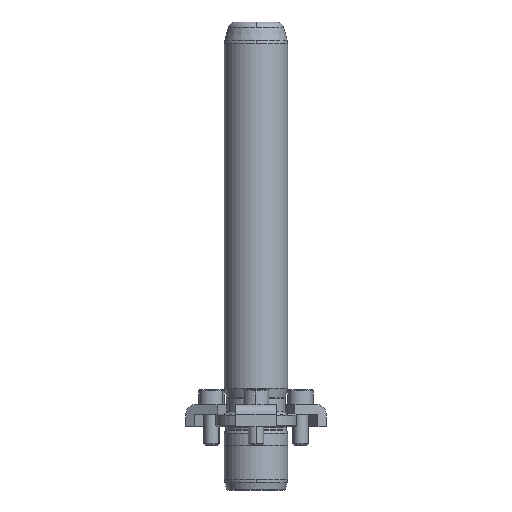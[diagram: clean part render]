
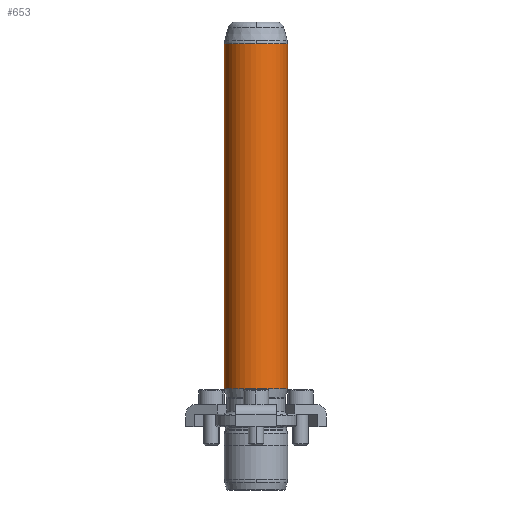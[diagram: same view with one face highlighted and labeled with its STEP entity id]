
A CAD part, front view. The second image highlights one B-rep face of the part: STEP entity #653.
In plain terms, the highlighted cylindrical face has radius 12.5 mm (diameter 25 mm), a partial arc.
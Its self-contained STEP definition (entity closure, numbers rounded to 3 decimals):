
#566=CARTESIAN_POINT('',(0.0,-12.5,151.342));
#567=VERTEX_POINT('',#566);
#594=CARTESIAN_POINT('',(-12.5,0.,151.342));
#595=VERTEX_POINT('',#594);
#603=CARTESIAN_POINT('',(0.0,0.,151.342));
#604=DIRECTION('',(0.0,0.0,1.0));
#605=DIRECTION('',(1.0,0.0,0.0));
#606=AXIS2_PLACEMENT_3D('',#603,#604,#605);
#607=CIRCLE('',#606,12.5);
#608=EDGE_CURVE('',#595,#567,#607,.T.);
#613=CARTESIAN_POINT('',(0.0,0.,83.171));
#614=DIRECTION('',(0.0,0.,1.0));
#615=DIRECTION('',(1.0,0.0,0.0));
#616=AXIS2_PLACEMENT_3D('',#613,#614,#615);
#617=CYLINDRICAL_SURFACE('',#616,12.5);
#618=CARTESIAN_POINT('',(12.5,0.,151.342));
#619=VERTEX_POINT('',#618);
#620=CARTESIAN_POINT('',(12.5,0.,15.0));
#621=VERTEX_POINT('',#620);
#622=CARTESIAN_POINT('',(12.5,0.,151.342));
#623=DIRECTION('',(0.0,0.0,-1.0));
#624=VECTOR('',#623,136.342);
#625=LINE('',#622,#624);
#626=EDGE_CURVE('',#619,#621,#625,.T.);
#627=ORIENTED_EDGE('',*,*,#626,.F.);
#628=CARTESIAN_POINT('',(0.0,0.,151.342));
#629=DIRECTION('',(0.0,0.0,1.0));
#630=DIRECTION('',(1.0,0.0,0.0));
#631=AXIS2_PLACEMENT_3D('',#628,#629,#630);
#632=CIRCLE('',#631,12.5);
#633=EDGE_CURVE('',#567,#619,#632,.T.);
#634=ORIENTED_EDGE('',*,*,#633,.F.);
#635=ORIENTED_EDGE('',*,*,#608,.F.);
#636=CARTESIAN_POINT('',(-12.5,0.,15.0));
#637=VERTEX_POINT('',#636);
#638=CARTESIAN_POINT('',(-12.5,0.,151.342));
#639=DIRECTION('',(0.0,0.0,-1.0));
#640=VECTOR('',#639,136.342);
#641=LINE('',#638,#640);
#642=EDGE_CURVE('',#595,#637,#641,.T.);
#643=ORIENTED_EDGE('',*,*,#642,.T.);
#644=CARTESIAN_POINT('',(0.0,0.,15.0));
#645=DIRECTION('',(0.0,0.0,1.0));
#646=DIRECTION('',(1.0,0.0,0.0));
#647=AXIS2_PLACEMENT_3D('',#644,#645,#646);
#648=CIRCLE('',#647,12.5);
#649=EDGE_CURVE('',#637,#621,#648,.T.);
#650=ORIENTED_EDGE('',*,*,#649,.T.);
#651=EDGE_LOOP('',(#627,#634,#635,#643,#650));
#652=FACE_OUTER_BOUND('',#651,.T.);
#653=ADVANCED_FACE('',(#652),#617,.T.);
